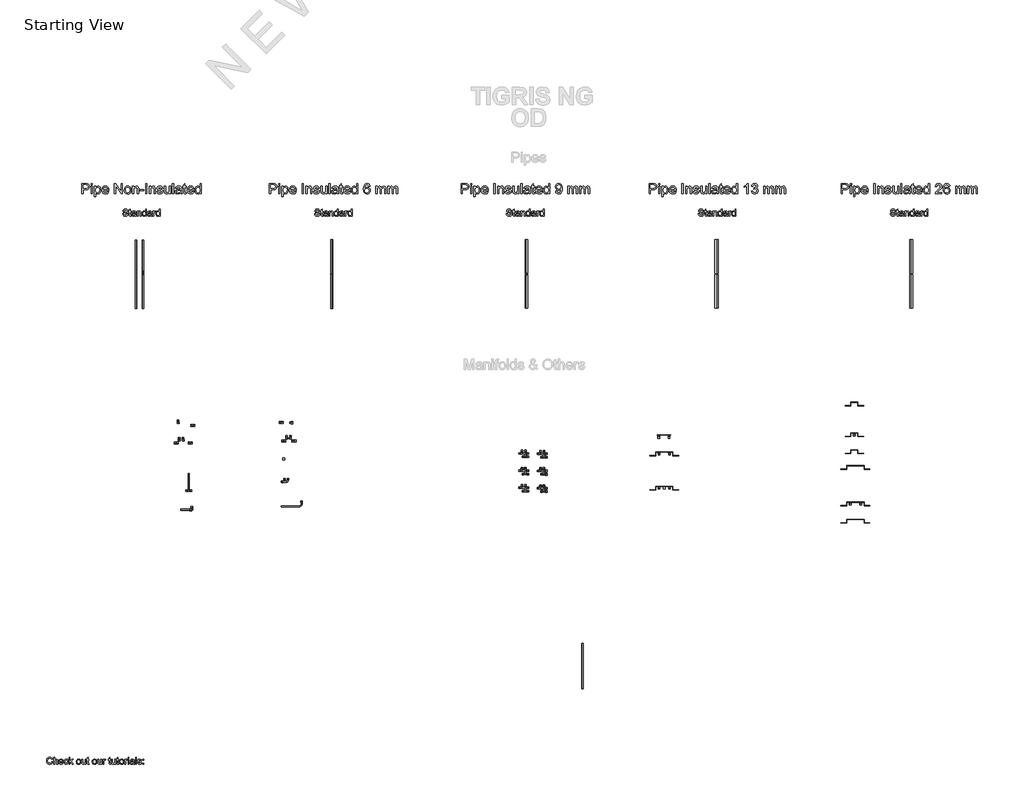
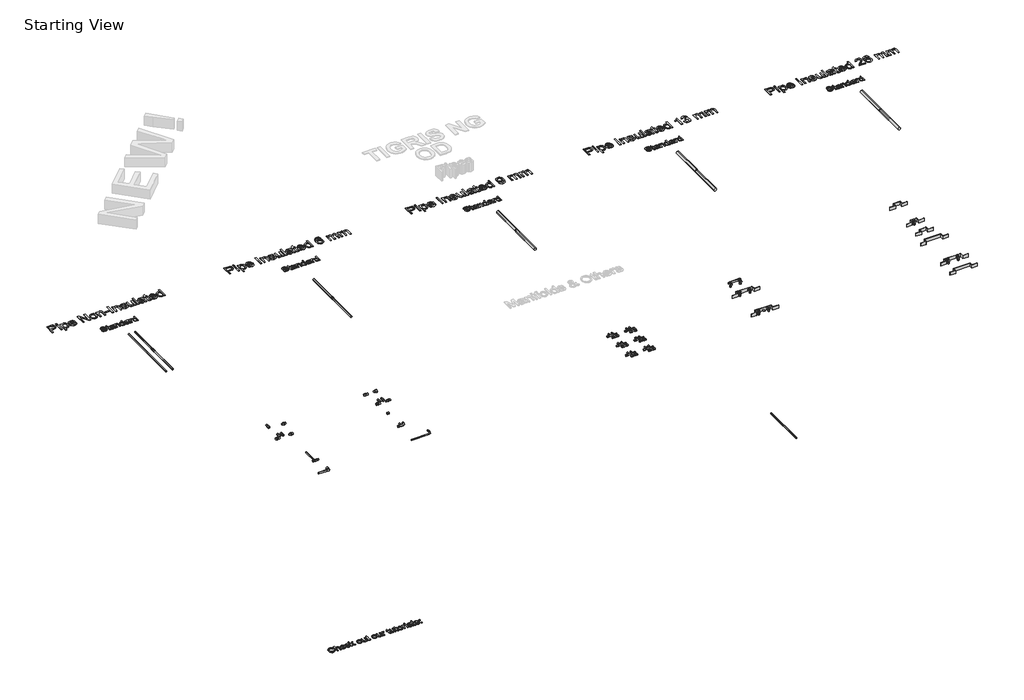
# One storey, part 1 of 3: 41 pipe fittings, 12 pipe segments, 1 proxy.
"""IFC4 building model written with IfcOpenShell, lengths in millimetres."""

from ifc_helpers import new_model, si_unit, point, frame, frame_2d, origin, origin_with_axes, place, context, project, spatial, polyline, circle_curve, trimmed, segment, composite_curve, outline, extrude, transform, mapped, element, save
from components import pipe_fitting_6edcd083, pipe_fitting_dc3cae9f, pipe_fitting_bdfedd8b, pipe_fitting_fed8c86e, pipe_fitting_06188edc, pipe_fitting_1897fdac, pipe_fitting_f2b27973, standard_16_15_64cd6acc, pipe_fitting_f4479bfb, pipe_fitting_2a3987b6, pipe_fitting_a6db7834, m5_standard_16_15_20_15_f5922961, m5_standard_16_15_20_15_51ee50e7, standard_570630be, standard_5f3277fd, standard_16_15_36090b3b, standard_16_15_75b3f4f0, standard_16_15_20_15_c8b35c62, standard_16_25_0061edbd, var_dd9a576a, var_e74b5a52, var_e2d3336e, var_4f26fd76, var_25c4f382, var_9b609cd4, var_ce6fcb06, z_starting_view_new_start_4_8b2e35f7, z_starting_view_new_start_4_25267f94, z_starting_view_new_start_4_25d7ddd4

model = new_model("IFC4")

# Units and contexts
model_context = context("Model", 3, world=origin())
ifc_project = project(units=[si_unit("LENGTHUNIT", "METRE", prefix="MILLI")], contexts=[model_context])

# Site, building, storey
site = spatial("IfcSite", under=ifc_project)
building = spatial("IfcBuilding", under=site)
storey = spatial("IfcBuildingStorey", under=building, Name="Starting View", Elevation=0.0)

# Proxy
placement = place(None, origin())
element("IfcBuildingElementProxy", 1, Name="Arial 100", ObjectType="Arial 100", at=placement, inside=storey, context=model_context, shape_type="SweptSolid", body=[
    extrude(outline(polyline([(13051.5836653, 2506.4993946), (13064.1407041, 2503.2620331), (13058.3465627, 2488.6295267), (13049.253746, 2477.9394891), (13037.3098439, 2471.4003866), (13022.9624461, 2469.2206858), (13008.3973848, 2470.8700234), (12996.8305617, 2475.8180362), (12987.9646056, 2483.893046), (12981.5021453, 2494.9233745), (12976.2414327, 2521.7787602), (12977.7282891, 2536.426595), (12982.1888583, 2549.0756042), (12989.3901484, 2559.3241835), (12999.0991674, 2566.7707282), (13010.6138738, 2571.3048738), (13023.2322262, 2572.8162556), (13037.0002099, 2570.8603497), (13048.383092, 2564.9926319), (13057.0252532, 2555.5748528), (13062.5710743, 2542.9687631), (13050.0140355, 2539.9766562), (13039.7133396, 2555.4154373), (13022.7417169, 2560.2592169), (13003.0968184, 2554.8881397), (12991.9990449, 2540.4671655), (12988.7984715, 2521.8032856), (12992.587656, 2500.1718243), (13004.3844054, 2486.351724), (13021.7116473, 2481.7777246), (13032.1932185, 2483.3350917), (13040.9273502, 2488.007193), (13047.521635, 2495.7449777), (13051.5836653, 2506.4993946)])), origin_with_axes(), (0.0, 0.0, 1.0), 10.0),
    extrude(outline(polyline([(13079.8370026, 2470.7903156), (13079.8370026, 2571.2466258), (13092.3940413, 2571.2466258), (13092.3940413, 2534.3112735), (13102.1858338, 2543.1772296), (13114.2462318, 2546.1325483), (13128.348375, 2542.9074494), (13136.9077628, 2533.9924424), (13139.4829367, 2517.4868036), (13139.4829367, 2470.7903156), (13126.925898, 2470.7903156), (13126.925898, 2516.1869539), (13122.9282469, 2529.4307057), (13111.5974815, 2533.5755095), (13101.3090484, 2530.7796063), (13094.4419178, 2523.2012372), (13092.3940413, 2509.9820109), (13092.3940413, 2470.7903156), (13079.8370026, 2470.7903156)])), origin_with_axes(), (0.0, 0.0, 1.0), 10.0),
    extrude(outline(polyline([(13208.3994971, 2492.7651335), (13220.7112813, 2491.1955036), (13216.2752375, 2481.918746), (13209.1965748, 2474.9841704), (13199.6347086, 2470.6615569), (13187.7490545, 2469.2206858), (13173.0153806, 2471.7069549), (13161.6784838, 2479.1657624), (13154.4496026, 2491.1127302), (13152.0399755, 2507.0634804), (13154.474128, 2523.5507251), (13161.7765856, 2535.8809033), (13172.9601983, 2543.569637), (13187.037816, 2546.1325483), (13200.6770409, 2543.5757684), (13211.575545, 2535.9054288), (13218.7216528, 2523.5997761), (13221.1036887, 2507.1370568), (13221.0301123, 2503.7525424), (13164.5970143, 2503.7525424), (13166.7705837, 2494.3531574), (13171.8197641, 2487.4431073), (13179.1068933, 2483.1940702), (13187.9943091, 2481.7777246), (13200.3060933, 2484.4019495), (13208.3994971, 2492.7651335)]), holes=[polyline([(13164.5970143, 2516.3095812), (13208.5466499, 2516.3095812), (13203.5189293, 2527.6893976), (13196.1980776, 2532.1039815), (13186.988765, 2533.5755095), (13171.5254585, 2528.8788827), (13166.6602191, 2523.3882439), (13164.5970143, 2516.3095812)])]), origin_with_axes(), (0.0, 0.0, 1.0), 10.0),
    extrude(outline(polyline([(13280.7496229, 2497.474023), (13293.3066616, 2495.9043932), (13289.8056513, 2484.7361089), (13283.226695, 2476.2962828), (13274.1890606, 2470.9895851), (13263.3120163, 2469.2206858), (13249.9548342, 2471.6885609), (13239.5100512, 2479.092186), (13232.7686136, 2491.1065988), (13230.5214678, 2507.4068369), (13234.3597033, 2528.265746), (13246.0583507, 2541.6689134), (13263.140338, 2546.1325483), (13273.7506679, 2544.5997066), (13282.2334136, 2540.0011817), (13288.3187949, 2532.5822281), (13291.7370318, 2522.5881006), (13279.179993, 2521.0184707), (13273.3551948, 2530.4239871), (13263.2384399, 2533.5755095), (13255.1235762, 2532.0242737), (13248.6825756, 2527.3705665), (13244.4795238, 2519.3630017), (13243.0785066, 2507.7501934), (13244.448867, 2495.9810353), (13248.5599483, 2487.9458794), (13254.8844529, 2483.3197633), (13262.8950834, 2481.7777246), (13274.7286209, 2485.6282228), (13280.7496229, 2497.474023)])), origin_with_axes(), (0.0, 0.0, 1.0), 10.0),
    extrude(outline(polyline([(13304.2940706, 2470.7903156), (13304.2940706, 2571.2466258), (13316.8511093, 2571.2466258), (13316.8511093, 2517.2660744), (13345.0063447, 2544.5629184), (13362.3703749, 2544.5629184), (13333.871783, 2516.9227178), (13363.9400047, 2470.7903156), (13349.2737758, 2470.7903156), (13324.8709368, 2508.1916518), (13316.8511093, 2500.417079), (13316.8511093, 2470.7903156), (13304.2940706, 2470.7903156)])), origin_with_axes(), (0.0, 0.0, 1.0), 10.0),
    extrude(outline(polyline([(13411.0289001, 2507.676617), (13413.7450955, 2525.4637115), (13421.8936817, 2537.965568), (13431.9613856, 2544.0908032), (13444.0156523, 2546.1325483), (13457.2072875, 2543.6462791), (13467.744041, 2536.1874717), (13474.6510255, 2524.3447371), (13476.9533536, 2508.7066866), (13472.8821262, 2486.3639868), (13461.0240632, 2473.7211089), (13444.0156523, 2469.2206858), (13430.6646016, 2471.6977579), (13420.1401108, 2479.1289742), (13413.3067028, 2491.2200291), (13411.0289001, 2507.676617)]), holes=[polyline([(13423.5859389, 2507.7011425), (13425.0390727, 2496.3366545), (13429.3984744, 2488.2401849), (13435.9590366, 2483.3933397), (13444.0156523, 2481.7777246), (13452.0354798, 2483.4025367), (13458.5837793, 2488.2769731), (13462.943181, 2496.4807416), (13464.3963149, 2508.09355), (13462.9339839, 2519.1269441), (13458.5469911, 2527.1130491), (13451.9894946, 2531.9598944), (13444.0156523, 2533.5755095), (13435.9590366, 2531.9660258), (13429.3984744, 2527.1375746), (13425.0390727, 2519.0594991), (13423.5859389, 2507.7011425)])]), origin_with_axes(), (0.0, 0.0, 1.0), 10.0),
    extrude(outline(polyline([(13538.1689176, 2470.7903156), (13538.1689176, 2483.4699817), (13528.3342056, 2472.7830098), (13515.5073867, 2469.2206858), (13503.6983747, 2471.7222834), (13495.5559199, 2478.0008028), (13491.8157862, 2487.2469036), (13491.0800222, 2498.9210255), (13491.0800222, 2544.5629184), (13503.637061, 2544.5629184), (13503.637061, 2504.8316629), (13504.3973505, 2492.0293695), (13509.3637574, 2484.5123141), (13518.7202228, 2481.7777246), (13529.2048597, 2484.5736277), (13536.1333039, 2492.188785), (13538.1689176, 2506.1805636), (13538.1689176, 2544.5629184), (13550.7259564, 2544.5629184), (13550.7259564, 2470.7903156), (13538.1689176, 2470.7903156)])), origin_with_axes(), (0.0, 0.0, 1.0), 10.0),
    extrude(outline(polyline([(13594.6755921, 2481.2626898), (13596.2452219, 2470.4224337), (13586.8519683, 2469.2206858), (13576.3305433, 2471.3053504), (13571.0820935, 2476.7745294), (13569.5615145, 2491.0238254), (13569.5615145, 2532.0058796), (13560.1437355, 2532.0058796), (13560.1437355, 2544.5629184), (13569.5615145, 2544.5629184), (13569.5615145, 2562.4910343), (13582.1185533, 2569.8731997), (13582.1185533, 2544.5629184), (13594.6755921, 2544.5629184), (13594.6755921, 2532.0058796), (13582.1185533, 2532.0058796), (13582.1185533, 2491.3917074), (13582.7807409, 2484.9169843), (13584.9267192, 2482.6238532), (13589.2064131, 2481.7777246), (13594.6755921, 2481.2626898)])), origin_with_axes(), (0.0, 0.0, 1.0), 10.0),
    extrude(outline(polyline([(13643.3341173, 2507.676617), (13646.0503127, 2525.4637115), (13654.1988989, 2537.965568), (13664.2666028, 2544.0908032), (13676.3208695, 2546.1325483), (13689.5125048, 2543.6462791), (13700.0492582, 2536.1874717), (13706.9562427, 2524.3447371), (13709.2585708, 2508.7066866), (13705.1873434, 2486.3639868), (13693.3292805, 2473.7211089), (13676.3208695, 2469.2206858), (13662.9698188, 2471.6977579), (13652.4453281, 2479.1289742), (13645.61192, 2491.2200291), (13643.3341173, 2507.676617)]), holes=[polyline([(13655.8911561, 2507.7011425), (13657.34429, 2496.3366545), (13661.7036916, 2488.2401849), (13668.2642539, 2483.3933397), (13676.3208695, 2481.7777246), (13684.340697, 2483.4025367), (13690.8889966, 2488.2769731), (13695.2483982, 2496.4807416), (13696.7015321, 2508.09355), (13695.2392011, 2519.1269441), (13690.8522084, 2527.1130491), (13684.2947118, 2531.9598944), (13676.3208695, 2533.5755095), (13668.2642539, 2531.9660258), (13661.7036916, 2527.1375746), (13657.34429, 2519.0594991), (13655.8911561, 2507.7011425)])]), origin_with_axes(), (0.0, 0.0, 1.0), 10.0),
    extrude(outline(polyline([(13770.4741348, 2470.7903156), (13770.4741348, 2483.4699817), (13760.6394228, 2472.7830098), (13747.8126039, 2469.2206858), (13736.0035919, 2471.7222834), (13727.8611371, 2478.0008028), (13724.1210035, 2487.2469036), (13723.3852395, 2498.9210255), (13723.3852395, 2544.5629184), (13735.9422782, 2544.5629184), (13735.9422782, 2504.8316629), (13736.7025677, 2492.0293695), (13741.6689746, 2484.5123141), (13751.02544, 2481.7777246), (13761.5100769, 2484.5736277), (13768.4385211, 2492.188785), (13770.4741348, 2506.1805636), (13770.4741348, 2544.5629184), (13783.0311736, 2544.5629184), (13783.0311736, 2470.7903156), (13770.4741348, 2470.7903156)])), origin_with_axes(), (0.0, 0.0, 1.0), 10.0),
    extrude(outline(polyline([(13800.2971019, 2470.7903156), (13800.2971019, 2544.5629184), (13811.2845108, 2544.5629184), (13811.2845108, 2533.6490859), (13819.0836091, 2543.7045271), (13826.9317584, 2546.1325483), (13839.5378481, 2542.2575246), (13835.3439933, 2531.0003355), (13826.5148254, 2533.5755095), (13819.4147029, 2531.0984374), (13814.8897544, 2524.2313068), (13812.8541407, 2509.5650779), (13812.8541407, 2470.7903156), (13800.2971019, 2470.7903156)])), origin_with_axes(), (0.0, 0.0, 1.0), 10.0),
    extrude(outline(polyline([(13913.3104508, 2481.2626898), (13914.8800807, 2470.4224337), (13905.4868271, 2469.2206858), (13894.965402, 2471.3053504), (13889.7169522, 2476.7745294), (13888.1963733, 2491.0238254), (13888.1963733, 2532.0058796), (13878.7785942, 2532.0058796), (13878.7785942, 2544.5629184), (13888.1963733, 2544.5629184), (13888.1963733, 2562.4910343), (13900.7534121, 2569.8731997), (13900.7534121, 2544.5629184), (13913.3104508, 2544.5629184), (13913.3104508, 2532.0058796), (13900.7534121, 2532.0058796), (13900.7534121, 2491.3917074), (13901.4155997, 2484.9169843), (13903.561578, 2482.6238532), (13907.8412718, 2481.7777246), (13913.3104508, 2481.2626898)])), origin_with_axes(), (0.0, 0.0, 1.0), 10.0),
    extrude(outline(polyline([(13972.956385, 2470.7903156), (13972.956385, 2483.4699817), (13963.121673, 2472.7830098), (13950.2948541, 2469.2206858), (13938.485842, 2471.7222834), (13930.3433872, 2478.0008028), (13926.6032536, 2487.2469036), (13925.8674896, 2498.9210255), (13925.8674896, 2544.5629184), (13938.4245284, 2544.5629184), (13938.4245284, 2504.8316629), (13939.1848178, 2492.0293695), (13944.1512248, 2484.5123141), (13953.5076902, 2481.7777246), (13963.992327, 2484.5736277), (13970.9207713, 2492.188785), (13972.956385, 2506.1805636), (13972.956385, 2544.5629184), (13985.5134238, 2544.5629184), (13985.5134238, 2470.7903156), (13972.956385, 2470.7903156)])), origin_with_axes(), (0.0, 0.0, 1.0), 10.0),
    extrude(outline(polyline([(14029.4630595, 2481.2626898), (14031.0326893, 2470.4224337), (14021.6394357, 2469.2206858), (14011.1180106, 2471.3053504), (14005.8695608, 2476.7745294), (14004.3489819, 2491.0238254), (14004.3489819, 2532.0058796), (13994.9312028, 2532.0058796), (13994.9312028, 2544.5629184), (14004.3489819, 2544.5629184), (14004.3489819, 2562.4910343), (14016.9060207, 2569.8731997), (14016.9060207, 2544.5629184), (14029.4630595, 2544.5629184), (14029.4630595, 2532.0058796), (14016.9060207, 2532.0058796), (14016.9060207, 2491.3917074), (14017.5682083, 2484.9169843), (14019.7141866, 2482.6238532), (14023.9938805, 2481.7777246), (14029.4630595, 2481.2626898)])), origin_with_axes(), (0.0, 0.0, 1.0), 10.0),
    extrude(outline(polyline([(14038.8808385, 2507.676617), (14041.5970339, 2525.4637115), (14049.7456201, 2537.965568), (14059.8133241, 2544.0908032), (14071.8675908, 2546.1325483), (14085.059226, 2543.6462791), (14095.5959795, 2536.1874717), (14102.5029639, 2524.3447371), (14104.8052921, 2508.7066866), (14100.7340646, 2486.3639868), (14088.8760017, 2473.7211089), (14071.8675908, 2469.2206858), (14058.51654, 2471.6977579), (14047.9920493, 2479.1289742), (14041.1586412, 2491.2200291), (14038.8808385, 2507.676617)]), holes=[polyline([(14051.4378773, 2507.7011425), (14052.8910112, 2496.3366545), (14057.2504128, 2488.2401849), (14063.8109751, 2483.3933397), (14071.8675908, 2481.7777246), (14079.8874183, 2483.4025367), (14086.4357178, 2488.2769731), (14090.7951194, 2496.4807416), (14092.2482533, 2508.09355), (14090.7859224, 2519.1269441), (14086.3989296, 2527.1130491), (14079.841433, 2531.9598944), (14071.8675908, 2533.5755095), (14063.8109751, 2531.9660258), (14057.2504128, 2527.1375746), (14052.8910112, 2519.0594991), (14051.4378773, 2507.7011425)])]), origin_with_axes(), (0.0, 0.0, 1.0), 10.0),
    extrude(outline(polyline([(14118.9319607, 2470.7903156), (14118.9319607, 2544.5629184), (14129.9193696, 2544.5629184), (14129.9193696, 2533.6490859), (14137.7184679, 2543.7045271), (14145.5666171, 2546.1325483), (14158.1727068, 2542.2575246), (14153.9788521, 2531.0003355), (14145.1496842, 2533.5755095), (14138.0495617, 2531.0984374), (14133.5246132, 2524.2313068), (14131.4889994, 2509.5650779), (14131.4889994, 2470.7903156), (14118.9319607, 2470.7903156)])), origin_with_axes(), (0.0, 0.0, 1.0), 10.0),
    extrude(outline(polyline([(14166.0208561, 2558.689587), (14166.0208561, 2571.2466258), (14178.5778948, 2571.2466258), (14178.5778948, 2558.689587), (14166.0208561, 2558.689587)])), origin_with_axes(), (0.0, 0.0, 1.0), 10.0),
    extrude(outline(polyline([(14166.0208561, 2470.7903156), (14166.0208561, 2544.5629184), (14178.5778948, 2544.5629184), (14178.5778948, 2470.7903156), (14166.0208561, 2470.7903156)])), origin_with_axes(), (0.0, 0.0, 1.0), 10.0),
    extrude(outline(polyline([(14244.5023484, 2480.2080947), (14232.3254543, 2471.6977579), (14218.873236, 2469.2206858), (14208.3794021, 2470.7106079), (14200.6385518, 2475.1803741), (14195.8652829, 2481.9677969), (14194.2741933, 2490.4106887), (14196.677689, 2500.3435026), (14202.9929966, 2507.5539897), (14211.7853763, 2511.674268), (14222.6501579, 2513.562729), (14244.428772, 2517.879211), (14244.5023484, 2520.6751142), (14241.0442576, 2529.9457405), (14227.1628437, 2533.5755095), (14214.4586521, 2531.1597511), (14208.4008619, 2522.5881006), (14195.8438231, 2524.1577304), (14201.2762139, 2536.4204636), (14212.2145719, 2543.6064252), (14228.7815244, 2546.1325483), (14243.9995763, 2543.9007308), (14252.5957523, 2538.2966618), (14256.4462505, 2529.7740622), (14257.0593871, 2518.7866533), (14257.0593871, 2503.1639312), (14257.6970493, 2481.3485289), (14260.1986468, 2470.7903156), (14247.6416081, 2470.7903156), (14244.5023484, 2480.2080947)]), holes=[polyline([(14244.5023484, 2505.3221723), (14224.2443132, 2501.471674), (14213.4408452, 2499.4360603), (14208.5480147, 2496.1251224), (14206.8312321, 2491.2936055), (14210.5713657, 2484.5000513), (14221.5465119, 2481.7777246), (14234.2507034, 2484.7820942), (14242.4422092, 2492.053895), (14244.428772, 2501.7659796), (14244.5023484, 2505.3221723)])]), origin_with_axes(), (0.0, 0.0, 1.0), 10.0),
    extrude(outline(polyline([(14274.3253154, 2470.7903156), (14274.3253154, 2571.2466258), (14286.8823542, 2571.2466258), (14286.8823542, 2470.7903156), (14274.3253154, 2470.7903156)])), origin_with_axes(), (0.0, 0.0, 1.0), 10.0),
    extrude(outline(polyline([(14301.0090228, 2492.7651335), (14313.5660616, 2494.3347633), (14319.3785971, 2485.0150861), (14332.6959253, 2481.7777246), (14345.4982188, 2484.745306), (14349.6675481, 2491.7105384), (14345.4736933, 2497.3513957), (14332.5487725, 2500.9321138), (14313.639638, 2507.0757431), (14305.3868186, 2514.249442), (14302.5786527, 2524.3784596), (14304.8349956, 2533.734925), (14310.9908876, 2540.8840985), (14318.9739269, 2544.5997066), (14329.7773948, 2546.1325483), (14345.0567604, 2543.6677389), (14354.7688451, 2536.996812), (14359.0853271, 2525.7273603), (14346.5282884, 2524.1577304), (14341.8071361, 2531.0861747), (14330.7584135, 2533.5755095), (14318.740935, 2531.1965393), (14315.1356914, 2525.6537839), (14316.6317449, 2521.9994894), (14321.316109, 2519.2281117), (14332.1318396, 2516.5548358), (14350.5627276, 2510.6441985), (14359.1221153, 2503.9487461), (14362.2245868, 2493.0349136), (14358.5825551, 2481.0174351), (14348.0733927, 2472.2986318), (14332.5242471, 2469.2206858), (14319.8629751, 2470.7044765), (14310.6230056, 2475.1558487), (14304.4548508, 2482.5257513), (14301.0090228, 2492.7651335)])), origin_with_axes(), (0.0, 0.0, 1.0), 10.0),
    extrude(outline(polyline([(14379.4905151, 2470.7903156), (14379.4905151, 2483.3473544), (14392.0475539, 2483.3473544), (14392.0475539, 2470.7903156), (14379.4905151, 2470.7903156)])), origin_with_axes(), (0.0, 0.0, 1.0), 10.0),
    extrude(outline(polyline([(14379.4905151, 2532.0058796), (14379.4905151, 2544.5629184), (14392.0475539, 2544.5629184), (14392.0475539, 2532.0058796), (14379.4905151, 2532.0058796)])), origin_with_axes(), (0.0, 0.0, 1.0), 10.0),
])

# Pipe fittings
pipe_fitting_shape = pipe_fitting_6edcd083(model_context)
element("IfcPipeFitting", 2, ObjectType="PIF_Tigris_Crossfitting_Wavin_(multiport) : Tigris M5 Crossfitting 20x16x16", at=placement, inside=storey, context=model_context, shape_type="MappedRepresentation", body=[
    mapped(pipe_fitting_shape, transform((19960.9193239, 6507.2200387, 0.0), x_axis=(1.0, 0.0, 0.0), y_axis=(0.0, 1.0, 0.0), z_axis=(0.0, 0.0, 1.0))),
])
pipe_fitting_2_shape = pipe_fitting_dc3cae9f(model_context)
element("IfcPipeFitting", 3, ObjectType="PIF_Tigris_Crossfitting_Wavin_(multiport) : Tigris M5 Crossfitting 20x20x16", at=placement, inside=storey, context=model_context, shape_type="MappedRepresentation", body=[
    mapped(pipe_fitting_2_shape, transform((20231.2508424, 6752.1335563, 0.0), x_axis=(1.0, 0.0, 0.0), y_axis=(0.0, 1.0, 0.0), z_axis=(0.0, 0.0, 1.0))),
])
pipe_fitting_3_shape = pipe_fitting_bdfedd8b(model_context)
element("IfcPipeFitting", 4, ObjectType="PIF_Tigris_Crossfitting_Wavin_(multiport) : Tigris M5 Crossfitting 20x16x20", at=placement, inside=storey, context=model_context, shape_type="MappedRepresentation", body=[
    mapped(pipe_fitting_3_shape, transform((20231.2508424, 7002.1335563, 0.0), x_axis=(1.0, 0.0, 0.0), y_axis=(0.0, 1.0, 0.0), z_axis=(0.0, 0.0, 1.0))),
])
pipe_fitting_4_shape = pipe_fitting_fed8c86e(model_context)
element("IfcPipeFitting", 5, ObjectType="PIF_Tigris_Crossfitting_Wavin_(multiport) : Tigris M5 Crossfitting 16x20x16", at=placement, inside=storey, context=model_context, shape_type="MappedRepresentation", body=[
    mapped(pipe_fitting_4_shape, transform((19960.9193239, 6757.2200387, 0.0), x_axis=(1.0, 0.0, 0.0), y_axis=(0.0, 1.0, 0.0), z_axis=(0.0, 0.0, 1.0))),
])
pipe_fitting_5_shape = pipe_fitting_06188edc(model_context)
element("IfcPipeFitting", 6, ObjectType="PIF_Tigris_Crossfitting_Wavin_(multiport) : Tigris M5 Crossfitting 20x20x20", at=placement, inside=storey, context=model_context, shape_type="MappedRepresentation", body=[
    mapped(pipe_fitting_5_shape, transform((20231.2508424, 6502.1335563, 0.0), x_axis=(1.0, 0.0, 0.0), y_axis=(0.0, 1.0, 0.0), z_axis=(0.0, 0.0, 1.0))),
])
pipe_fitting_6_shape = pipe_fitting_1897fdac(model_context)
element("IfcPipeFitting", 7, ObjectType="PIF_Tigris_Crossfitting_Wavin_(multiport) : Tigris M5 Crossfitting 16x16x16", at=placement, inside=storey, context=model_context, shape_type="MappedRepresentation", body=[
    mapped(pipe_fitting_6_shape, transform((19960.9193239, 7007.2200387, 0.0), x_axis=(1.0, 0.0, 0.0), y_axis=(0.0, 1.0, 0.0), z_axis=(0.0, 0.0, 1.0))),
])
pipe_fitting_7_shape = pipe_fitting_f2b27973(model_context)
element("IfcPipeFitting", 8, ObjectType="PIF_Tigris_U-Connector_MMT_Wavin : 16-15/16-20/20-15/20-20", at=placement, inside=storey, context=model_context, shape_type="MappedRepresentation", body=[
    mapped(pipe_fitting_7_shape, transform((16447.9692893, 6595.4851762, 0.0), x_axis=(1.0, 0.0, 0.0), y_axis=(0.0, 1.0, 0.0), z_axis=(0.0, 0.0, 1.0))),
])
standard_16_15_shape = standard_16_15_64cd6acc(model_context)
element("IfcPipeFitting", 9, ObjectType="PIF_Tigris_Single_Plate_U-Turn_Wavin_(multiport) : Standard - 16-15/20-15/25-15", at=placement, inside=storey, context=model_context, shape_type="MappedRepresentation", body=[
    mapped(standard_16_15_shape, transform((24760.8958582, 7754.4695254, 0.0), x_axis=(1.0, 0.0, 0.0), y_axis=(0.0, 1.0, 0.0), z_axis=(0.0, 0.0, 1.0))),
])
pipe_fitting_8_shape = pipe_fitting_f4479bfb(model_context)
element("IfcPipeFitting", 10, ObjectType="PIF_Tigris_Elbow_Cu_30cm_M5_Wavin : Diameters 16-15", at=placement, inside=storey, context=model_context, shape_type="MappedRepresentation", body=[
    mapped(pipe_fitting_8_shape, transform((16697.9692893, 6237.4819708, 0.0), x_axis=(1.0, 0.0, 0.0), y_axis=(0.0, 1.0, 0.0), z_axis=(0.0, 0.0, 1.0))),
])
pipe_fitting_9_shape = pipe_fitting_2a3987b6(model_context)
element("IfcPipeFitting", 11, ObjectType="PIF_Tigris_Elbow_Cu_Connector_M5_Wavin : Diameters 16-12 / 16-15 / 20-15 / 20-22 / 25-22", at=placement, inside=storey, context=model_context, shape_type="MappedRepresentation", body=[
    mapped(pipe_fitting_9_shape, transform((15094.0343253, 6184.5403652, 0.0), x_axis=(1.0, 0.0, 0.0), y_axis=(0.0, 1.0, 0.0), z_axis=(0.0, 0.0, 1.0))),
])
pipe_fitting_10_shape = pipe_fitting_a6db7834(model_context)
element("IfcPipeFitting", 12, ObjectType="PIF_Tigris_Tee_Radiator_Connector_M5_Wavin : Diameters 16-15/20-15", at=placement, inside=storey, context=model_context, shape_type="MappedRepresentation", body=[
    mapped(pipe_fitting_10_shape, transform((15051.0343253, 6465.996556, 0.0), x_axis=(1.0, 0.0, 0.0), y_axis=(0.0, 0.0, -1.0), z_axis=(0.0, 1.0, 0.0))),
])
m5_standard_16_15_20_15_shape = m5_standard_16_15_20_15_f5922961(model_context)
element("IfcPipeFitting", 13, ObjectType="PIF_Tigris_Wall_Flange_Elbow_M-K_FMT_Wavin_(nested) : M5 Standard 16-15/20-15", at=placement, inside=storey, context=model_context, shape_type="MappedRepresentation", body=[
    mapped(m5_standard_16_15_20_15_shape, transform((24760.8958582, 7283.4477545, 0.0), x_axis=(0.0, 0.0, 1.0000000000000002), y_axis=(0.0, -1.0000000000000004, 0.0), z_axis=(1.0000000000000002, 0.0, 0.0))),
])
m5_standard_16_15_20_15_2_shape = m5_standard_16_15_20_15_51ee50e7(model_context)
element("IfcPipeFitting", 14, ObjectType="PIF_Tigris_Wall_Flange_Elbow_M-K_FMT_Wavin_(nested) : M5 Standard 16-15/20-15", at=placement, inside=storey, context=model_context, shape_type="MappedRepresentation", body=[
    mapped(m5_standard_16_15_20_15_2_shape, transform((24700.1697443, 6274.276634, 0.0), x_axis=(0.0, 0.0, 1.0000000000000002), y_axis=(0.0, -1.0000000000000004, 0.0), z_axis=(1.0000000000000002, 0.0, 0.0))),
])
element("IfcPipeFitting", 15, ObjectType="PIF_Tigris_Wall_Flange_Elbow_M-K_FMT_Wavin_(nested) : M5 Standard 16-15/20-15", at=placement, inside=storey, context=model_context, shape_type="MappedRepresentation", body=[
    mapped(m5_standard_16_15_20_15_2_shape, transform((24853.1697443, 6274.276634, 0.0), x_axis=(0.0, 0.0, 1.0000000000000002), y_axis=(0.0, -1.0000000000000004, 0.0), z_axis=(1.0000000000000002, 0.0, 0.0))),
])
standard_shape = standard_570630be(model_context)
element("IfcPipeFitting", 16, ObjectType="PIF_Tigris_Coupler_M-K_Wavin : Standard", at=placement, inside=storey, context=model_context, shape_type="MappedRepresentation", body=[
    mapped(standard_shape, transform((14383.1193149, 9645.2617688, 107.5), x_axis=(0.0, 1.0, 0.0), y_axis=(-1.0, 0.0, 0.0), z_axis=(0.0, 0.0, 1.0))),
])
element("IfcPipeFitting", 17, ObjectType="PIF_Tigris_Coupler_M-K_Wavin : Standard", at=placement, inside=storey, context=model_context, shape_type="MappedRepresentation", body=[
    mapped(standard_shape, transform((17137.2180612, 9626.3121207, 0.0), x_axis=(0.0, -1.0, 0.0), y_axis=(1.0, 0.0, 0.0), z_axis=(0.0, 0.0, 1.0))),
])
element("IfcPipeFitting", 18, ObjectType="PIF_Tigris_Coupler_M-K_Wavin : Standard", at=placement, inside=storey, context=model_context, shape_type="MappedRepresentation", body=[
    mapped(standard_shape, transform((19976.2680612, 9628.3121207, 107.5), x_axis=(0.0, 1.0, 0.0), y_axis=(-1.0, 0.0, 0.0), z_axis=(0.0, 0.0, 1.0))),
])
element("IfcPipeFitting", 19, ObjectType="PIF_Tigris_Coupler_M-K_Wavin : Standard", at=placement, inside=storey, context=model_context, shape_type="MappedRepresentation", body=[
    mapped(standard_shape, transform((22751.2965499, 9627.5030929, 107.5), x_axis=(0.0, 1.0, 0.0), y_axis=(-1.0, 0.0, 0.0), z_axis=(0.0, 0.0, 1.0))),
])
standard_2_shape = standard_5f3277fd(model_context)
element("IfcPipeFitting", 20, ObjectType="PIF_Tigris_Coupler_M-K_Wavin : Standard", at=placement, inside=storey, context=model_context, shape_type="MappedRepresentation", body=[
    mapped(standard_2_shape, transform((25591.3558383, 9627.0611311, 107.5), x_axis=(0.0, 1.0, 0.0), y_axis=(-1.0, 0.0, 0.0), z_axis=(0.0, 0.0, 1.0))),
])
standard_16_15_2_shape = standard_16_15_36090b3b(model_context)
element("IfcPipeFitting", 21, ObjectType="PIF_Tigris_Holder_Plate_Bath_Shower_FMT_Wavin_(multiport) : Standard - 16-15", at=placement, inside=storey, context=model_context, shape_type="MappedRepresentation", body=[
    mapped(standard_16_15_2_shape, transform((21987.337006, 7026.6660797, 0.0), x_axis=(1.0, 0.0, 0.0), y_axis=(0.0, 1.0, 0.0), z_axis=(0.0, 0.0, 1.0))),
])
standard_16_15_3_shape = standard_16_15_75b3f4f0(model_context)
element("IfcPipeFitting", 22, ObjectType="PIF_Tigris_Holder_Plate_Washstand_FMT_Wavin_(multiport) : Standard - 16-15", at=placement, inside=storey, context=model_context, shape_type="MappedRepresentation", body=[
    mapped(standard_16_15_3_shape, transform((21987.337006, 6527.6660797, 0.0), x_axis=(1.0, 0.0, 0.0), y_axis=(0.0, 1.0, 0.0), z_axis=(0.0, 0.0, 1.0))),
])
element("IfcPipeFitting", 23, ObjectType="PIF_Tigris_Single_Plate_Tee_FMT_Wavin_(multiport) : Standard - 16-15", at=placement, inside=storey, context=model_context, shape_type="MappedRepresentation", body=[
    mapped(standard_16_15_shape, transform((24760.8958582, 7059.9303394, 0.0), x_axis=(1.0, 0.0, 0.0), y_axis=(0.0, 1.0, 0.0), z_axis=(0.0, 0.0, 1.0))),
])
element("IfcPipeFitting", 24, ObjectType="PIF_Tigris_Single_Plate_Elbow_FMT_Wavin_(multiport) : Standard - 16-15", at=placement, inside=storey, context=model_context, shape_type="MappedRepresentation", body=[
    mapped(standard_16_15_shape, transform((24760.8958582, 7305.4477545, 0.0), x_axis=(1.0, 0.0, 0.0), y_axis=(0.0, 1.0, 0.0), z_axis=(0.0, 0.0, 1.0))),
])
standard_16_15_20_15_shape = standard_16_15_20_15_c8b35c62(model_context)
element("IfcPipeFitting", 25, ObjectType="PIF_Tigris_Holder_Plate_Anti-Rotatable_FMT_Wavin_(multiport) : Standard - 16-15/20-15", at=placement, inside=storey, context=model_context, shape_type="MappedRepresentation", body=[
    mapped(standard_16_15_20_15_shape, transform((21983.5423912, 7276.1660797, 0.0), x_axis=(1.0, 0.0, 0.0), y_axis=(0.0, 1.0, 0.0), z_axis=(0.0, 0.0, 1.0))),
])
standard_16_25_shape = standard_16_25_0061edbd(model_context)
element("IfcPipeFitting", 26, ObjectType="PIF_Tigris_Multiple_Plate_Tee_FMT_Wavin_(multiport) : Standard 16-20", at=placement, inside=storey, context=model_context, shape_type="MappedRepresentation", body=[
    mapped(standard_16_25_shape, transform((24776.6697443, 6827.9945437, 0.0), x_axis=(1.0, 0.0, 0.0), y_axis=(0.0, 1.0, 0.0), z_axis=(0.0, 0.0, 1.0))),
])
element("IfcPipeFitting", 27, ObjectType="PIF_Tigris_Multiple_Plate_Elbow_FMT_Wavin_(multiport) : Standard 16-25", at=placement, inside=storey, context=model_context, shape_type="MappedRepresentation", body=[
    mapped(standard_16_25_shape, transform((24776.6697443, 6296.276634, 0.0), x_axis=(1.0, 0.0, 0.0), y_axis=(0.0, 1.0, 0.0), z_axis=(0.0, 0.0, 1.0))),
])
element("IfcPipeFitting", 28, ObjectType="PIF_Tigris_Multiple_Plate_U-Turn_Wavin_(multiport) : Standard 16-25", at=placement, inside=storey, context=model_context, shape_type="MappedRepresentation", body=[
    mapped(standard_16_25_shape, transform((24776.6697443, 6045.3658341, 0.0), x_axis=(1.0, 0.0, 0.0), y_axis=(0.0, 1.0, 0.0), z_axis=(0.0, 0.0, 1.0))),
])
var_shape = var_dd9a576a(model_context)
element("IfcPipeFitting", 29, ObjectType="Z_PIF_Tigris_K1_Manifold_Male_To_Male_Thread_Wavin_(nested) : Var.", at=placement, inside=storey, context=model_context, shape_type="MappedRepresentation", body=[
    mapped(var_shape, transform((15101.4922723, 7161.262819, 0.0), x_axis=(1.0, 0.0, 0.0), y_axis=(0.0, 1.0, 0.0), z_axis=(0.0, 0.0, 1.0))),
])
element("IfcPipeFitting", 30, ObjectType="Z_PIF_Tigris_K1_Manifold_Male_To_Male_Thread_Wavin_(nested) : Var.", at=placement, inside=storey, context=model_context, shape_type="MappedRepresentation", body=[
    mapped(var_shape, transform((15137.9146361, 7416.4648675, 0.0), x_axis=(1.0, 0.0, 0.0), y_axis=(0.0, 1.0, 0.0), z_axis=(0.0, 0.0, 1.0))),
])
var_2_shape = var_e74b5a52(model_context)
element("IfcPipeFitting", 31, ObjectType="Z_PIF_Tigris_K1_Manifold_Male_To_Female_Thread_Wavin_(nested) : Var.", at=placement, inside=storey, context=model_context, shape_type="MappedRepresentation", body=[
    mapped(var_2_shape, transform((16522.4060064, 7458.2737205, 0.0), x_axis=(1.0, 0.0, 0.0), y_axis=(0.0, 1.0, 0.0), z_axis=(0.0, 0.0, 1.0))),
])
var_3_shape = var_e2d3336e(model_context)
element("IfcPipeFitting", 32, ObjectType="Z_PIF_Tigris_Manifold_Connector_K5_Wavin_(nested) : Var.", at=placement, inside=storey, context=model_context, shape_type="MappedRepresentation", body=[
    mapped(var_3_shape, transform((16479.6272362, 7247.5971202, 0.0), x_axis=(0.0, 1.0, 0.0), y_axis=(-1.0, 0.0, 0.0), z_axis=(0.0, 0.0, 1.0))),
])
var_4_shape = var_4f26fd76(model_context)
element("IfcPipeFitting", 33, ObjectType="Z_PIF_Tigris_Manifold_Adaptor_K5_MMT_Wavin_(nested) : Var.", at=placement, inside=storey, context=model_context, shape_type="MappedRepresentation", body=[
    mapped(var_4_shape, transform((16595.1272362, 7190.1971202, 0.0), x_axis=(1.0, 0.0, 0.0), y_axis=(0.0, 1.0, 0.0), z_axis=(0.0, 0.0, 1.0))),
])
var_5_shape = var_25c4f382(model_context)
element("IfcPipeFitting", 34, ObjectType="Z_PIF_Tigris_K1_Manifold_Female_Cap_Wavin_(nested) : Var.", at=placement, inside=storey, context=model_context, shape_type="MappedRepresentation", body=[
    mapped(var_5_shape, transform((16442.6968001, 6929.6829989, 0.0), x_axis=(1.0, 0.0, 0.0), y_axis=(0.0, 1.0, 0.0), z_axis=(0.0, 0.0, 1.0))),
])
var_6_shape = var_9b609cd4(model_context)
element("IfcPipeFitting", 35, ObjectType="Z_PIF_Tigris_K1_Manifold_Female_To_Male_Thread_Wavin_(nested) : Var.", at=placement, inside=storey, context=model_context, shape_type="MappedRepresentation", body=[
    mapped(var_6_shape, transform((14838.7922723, 7161.262819, 0.0), x_axis=(-1.0, 0.0, 0.0), y_axis=(0.0, -1.0, 0.0), z_axis=(0.0, 0.0, 1.0))),
])
element("IfcPipeFitting", 36, ObjectType="Z_PIF_Tigris_K1_Manifold_Female_To_Male_Thread_Wavin_(nested) : Var.", at=placement, inside=storey, context=model_context, shape_type="MappedRepresentation", body=[
    mapped(var_6_shape, transform((16405.4272362, 7190.1971202, 0.0), x_axis=(-1.0, 0.0, 0.0), y_axis=(0.0, -1.0, 0.0), z_axis=(0.0, 0.0, 1.0))),
])
element("IfcPipeFitting", 37, ObjectType="Z_PIF_Tigris_K1_Manifold_Female_To_Male_Thread_Wavin_(nested) : Var.", at=placement, inside=storey, context=model_context, shape_type="MappedRepresentation", body=[
    mapped(var_6_shape, transform((16371.7060064, 7458.2737205, 0.0), x_axis=(-1.0, 0.0, 0.0), y_axis=(0.0, -1.0, 0.0), z_axis=(0.0, 0.0, 1.0))),
])
var_7_shape = var_ce6fcb06(model_context)
element("IfcPipeFitting", 38, ObjectType="Z_PIF_Tigris_Manifold_Connector_K5_Wavin_(nested) : Var.", at=placement, inside=storey, context=model_context, shape_type="MappedRepresentation", body=[
    mapped(var_7_shape, transform((16534.6272362, 7247.5971202, 0.0), x_axis=(0.0, 1.0, 0.0), y_axis=(-1.0, 0.0, 0.0), z_axis=(0.0, 0.0, 1.0))),
])
element("IfcPipeFitting", 39, ObjectType="Z_PIF_Tigris_Manifold_Connector_K5_Wavin_(nested) : Var.", at=placement, inside=storey, context=model_context, shape_type="MappedRepresentation", body=[
    mapped(var_7_shape, transform((14967.9922723, 7218.662819, 0.0), x_axis=(0.0, 1.0, 0.0), y_axis=(-1.0, 0.0, 0.0), z_axis=(0.0, 0.0, 1.0))),
])
element("IfcPipeFitting", 40, ObjectType="Z_PIF_Tigris_Manifold_Connector_K5_Wavin_(nested) : Var.", at=placement, inside=storey, context=model_context, shape_type="MappedRepresentation", body=[
    mapped(var_7_shape, transform((14912.9922723, 7218.662819, 0.0), x_axis=(0.0, 1.0, 0.0), y_axis=(-1.0, 0.0, 0.0), z_axis=(0.0, 0.0, 1.0))),
])
element("IfcPipeFitting", 41, ObjectType="Z_PIF_Tigris_Manifold_Connector_K5_Wavin_(nested) : Var.", at=placement, inside=storey, context=model_context, shape_type="MappedRepresentation", body=[
    mapped(var_7_shape, transform((14894.4146361, 7473.8648675, 0.0), x_axis=(0.0, 1.0, 0.0), y_axis=(-1.0, 0.0, 0.0), z_axis=(0.0, 0.0, 1.0))),
])
z_starting_view_new_start_4_shape = z_starting_view_new_start_4_8b2e35f7(model_context)
z_starting_view_new_start_4_2_shape = z_starting_view_new_start_4_25267f94(model_context)
z_starting_view_new_start_4_3_shape = z_starting_view_new_start_4_25d7ddd4(model_context)
element("IfcPipeFitting", 42, ObjectType="Z_Starting_View_New : Start_4", at=placement, inside=storey, context=model_context, shape_type="MappedRepresentation", body=[
    mapped(z_starting_view_new_start_4_shape, transform((-8272.2761588, 3352.0534974, 0.0), x_axis=(1.0, 0.0, 0.0), y_axis=(0.0, 1.0, 0.0), z_axis=(0.0, 0.0, 1.0))),
    mapped(z_starting_view_new_start_4_2_shape, transform((-8272.2761588, 3352.0534974, 0.0), x_axis=(1.0, 0.0, 0.0), y_axis=(0.0, 1.0, 0.0), z_axis=(0.0, 0.0, 1.0))),
    mapped(z_starting_view_new_start_4_3_shape, transform((-8272.2761588, 3352.0534974, 0.0), x_axis=(1.0, 0.0, 0.0), y_axis=(0.0, 1.0, 0.0), z_axis=(0.0, 0.0, 1.0))),
])

# Pipe segments
element("IfcPipeSegment", 43, ObjectType="Wavin Tigris Single Pipe (OD) - Standard", at=placement, inside=storey, context=model_context, shape_type="SweptSolid", body=[
    extrude(outline(composite_curve([segment(trimmed(circle_curve(frame_2d((107.5, 14283.1193149)), 10.0), [point((107.5, 14293.1193149))], [point((117.5, 14283.1193149))], False, "CARTESIAN"), True, "CONTINUOUS"), segment(trimmed(circle_curve(frame_2d((107.5, 14283.1193149)), 10.0), [point((117.5, 14283.1193149))], [point((107.5, 14273.1193149))], False, "CARTESIAN"), True, "CONTINUOUS"), segment(trimmed(circle_curve(frame_2d((107.5, 14283.1193149)), 10.0), [point((107.5, 14273.1193149))], [point((97.5, 14283.1193149))], False, "CARTESIAN"), True, "CONTINUOUS"), segment(trimmed(circle_curve(frame_2d((107.5, 14283.1193149)), 10.0), [point((97.5, 14283.1193149))], [point((107.5, 14293.1193149))], False, "CARTESIAN"), True, "CONTINUOUS")], self_intersect=False)), frame((0.0, 9125.2617688, 0.0), z_axis=(0.0, 1.0, 0.0), x_axis=(0.0, 0.0, 1.0)), (0.0, 0.0, 1.0), 1000.0),
])
element("IfcPipeSegment", 44, ObjectType="Wavin Tigris Pipe in Coil (OD) - Standard", at=placement, inside=storey, context=model_context, shape_type="SweptSolid", body=[
    extrude(outline(composite_curve([segment(trimmed(circle_curve(frame_2d((107.5, 14383.1193149)), 10.0), [point((107.5, 14393.1193149))], [point((117.5, 14383.1193149))], False, "CARTESIAN"), True, "CONTINUOUS"), segment(trimmed(circle_curve(frame_2d((107.5, 14383.1193149)), 10.0), [point((117.5, 14383.1193149))], [point((107.5, 14373.1193149))], False, "CARTESIAN"), True, "CONTINUOUS"), segment(trimmed(circle_curve(frame_2d((107.5, 14383.1193149)), 10.0), [point((107.5, 14373.1193149))], [point((97.5, 14383.1193149))], False, "CARTESIAN"), True, "CONTINUOUS"), segment(trimmed(circle_curve(frame_2d((107.5, 14383.1193149)), 10.0), [point((97.5, 14383.1193149))], [point((107.5, 14393.1193149))], False, "CARTESIAN"), True, "CONTINUOUS")], self_intersect=False)), frame((0.0, 9653.7617688, 0.0), z_axis=(0.0, 1.0, 0.0), x_axis=(0.0, 0.0, 1.0)), (0.0, 0.0, 1.0), 471.5),
])
element("IfcPipeSegment", 45, ObjectType="Wavin Tigris Pipe Insulated 9mm Red (OD) - Standard", at=placement, inside=storey, context=model_context, shape_type="SweptSolid", body=[
    extrude(outline(composite_curve([segment(trimmed(circle_curve(frame_2d((107.5, 19976.2680612)), 19.0), [point((107.5, 19995.2680612))], [point((126.5, 19976.2680612))], False, "CARTESIAN"), True, "CONTINUOUS"), segment(trimmed(circle_curve(frame_2d((107.5, 19976.2680612)), 19.0), [point((126.5, 19976.2680612))], [point((107.5, 19957.2680612))], False, "CARTESIAN"), True, "CONTINUOUS"), segment(trimmed(circle_curve(frame_2d((107.5, 19976.2680612)), 19.0), [point((107.5, 19957.2680612))], [point((88.5, 19976.2680612))], False, "CARTESIAN"), True, "CONTINUOUS"), segment(trimmed(circle_curve(frame_2d((107.5, 19976.2680612)), 19.0), [point((88.5, 19976.2680612))], [point((107.5, 19995.2680612))], False, "CARTESIAN"), True, "CONTINUOUS")], self_intersect=False)), frame((0.0, 9636.8121207, 0.0), z_axis=(0.0, 1.0, 0.0), x_axis=(0.0, 0.0, 1.0)), (0.0, 0.0, 1.0), 491.5),
])
element("IfcPipeSegment", 46, ObjectType="Wavin Tigris Pipe Insulated 13mm Red (OD) - Standard", at=placement, inside=storey, context=model_context, shape_type="SweptSolid", body=[
    extrude(outline(composite_curve([segment(trimmed(circle_curve(frame_2d((107.5, 22751.2965499)), 23.0), [point((107.5, 22774.2965499))], [point((130.5, 22751.2965499))], False, "CARTESIAN"), True, "CONTINUOUS"), segment(trimmed(circle_curve(frame_2d((107.5, 22751.2965499)), 23.0), [point((130.5, 22751.2965499))], [point((107.5, 22728.2965499))], False, "CARTESIAN"), True, "CONTINUOUS"), segment(trimmed(circle_curve(frame_2d((107.5, 22751.2965499)), 23.0), [point((107.5, 22728.2965499))], [point((84.5, 22751.2965499))], False, "CARTESIAN"), True, "CONTINUOUS"), segment(trimmed(circle_curve(frame_2d((107.5, 22751.2965499)), 23.0), [point((84.5, 22751.2965499))], [point((107.5, 22774.2965499))], False, "CARTESIAN"), True, "CONTINUOUS")], self_intersect=False)), frame((0.0, 9636.0030929, 0.0), z_axis=(0.0, 1.0, 0.0), x_axis=(0.0, 0.0, 1.0)), (0.0, 0.0, 1.0), 491.5),
])
element("IfcPipeSegment", 47, ObjectType="Wavin Tigris Pipe in Coil (OD) - Standard", at=placement, inside=storey, context=model_context, shape_type="SweptSolid", body=[
    extrude(outline(composite_curve([segment(trimmed(circle_curve(frame_2d((107.5, 14383.1193149)), 10.0), [point((107.5, 14373.1193149))], [point((97.5, 14383.1193149))], False, "CARTESIAN"), True, "CONTINUOUS"), segment(trimmed(circle_curve(frame_2d((107.5, 14383.1193149)), 10.0), [point((97.5, 14383.1193149))], [point((107.5, 14393.1193149))], False, "CARTESIAN"), True, "CONTINUOUS"), segment(trimmed(circle_curve(frame_2d((107.5, 14383.1193149)), 10.0), [point((107.5, 14393.1193149))], [point((117.5, 14383.1193149))], False, "CARTESIAN"), True, "CONTINUOUS"), segment(trimmed(circle_curve(frame_2d((107.5, 14383.1193149)), 10.0), [point((117.5, 14383.1193149))], [point((107.5, 14373.1193149))], False, "CARTESIAN"), True, "CONTINUOUS")], self_intersect=False)), frame((0.0, 9125.2617688, 0.0), z_axis=(0.0, 1.0, 0.0), x_axis=(0.0, 0.0, 1.0)), (0.0, 0.0, 1.0), 511.5),
])
element("IfcPipeSegment", 48, ObjectType="Wavin Tigris Pipe in Coil (OD) - In Protection", at=placement, inside=storey, context=model_context, shape_type="SweptSolid", body=[
    extrude(outline(composite_curve([segment(trimmed(circle_curve(frame_2d((0.0, 17137.2180612)), 14.0), [point((0.0, 17123.2180612))], [point((-14.0, 17137.2180612))], False, "CARTESIAN"), True, "CONTINUOUS"), segment(trimmed(circle_curve(frame_2d((0.0, 17137.2180612)), 14.0), [point((-14.0, 17137.2180612))], [point((0.0, 17151.2180612))], False, "CARTESIAN"), True, "CONTINUOUS"), segment(trimmed(circle_curve(frame_2d((0.0, 17137.2180612)), 14.0), [point((0.0, 17151.2180612))], [point((14.0, 17137.2180612))], False, "CARTESIAN"), True, "CONTINUOUS"), segment(trimmed(circle_curve(frame_2d((0.0, 17137.2180612)), 14.0), [point((14.0, 17137.2180612))], [point((0.0, 17123.2180612))], False, "CARTESIAN"), True, "CONTINUOUS")], self_intersect=False)), frame((0.0, 9126.3121207, 0.0), z_axis=(0.0, 1.0, 0.0), x_axis=(0.0, 0.0, 1.0)), (0.0, 0.0, 1.0), 491.5),
])
element("IfcPipeSegment", 49, ObjectType="Wavin Tigris Pipe Insulated 26mm Grey (OD) - Standard", at=placement, inside=storey, context=model_context, shape_type="SweptSolid", body=[
    extrude(outline(composite_curve([segment(trimmed(circle_curve(frame_2d((107.5, 25591.3558383)), 21.0), [point((107.5, 25612.3558383))], [point((128.5, 25591.3558383))], False, "CARTESIAN"), True, "CONTINUOUS"), segment(trimmed(circle_curve(frame_2d((107.5, 25591.3558383)), 21.0), [point((128.5, 25591.3558383))], [point((107.5, 25570.3558383))], False, "CARTESIAN"), True, "CONTINUOUS"), segment(trimmed(circle_curve(frame_2d((107.5, 25591.3558383)), 21.0), [point((107.5, 25570.3558383))], [point((86.5, 25591.3558383))], False, "CARTESIAN"), True, "CONTINUOUS"), segment(trimmed(circle_curve(frame_2d((107.5, 25591.3558383)), 21.0), [point((86.5, 25591.3558383))], [point((107.5, 25612.3558383))], False, "CARTESIAN"), True, "CONTINUOUS")], self_intersect=False)), frame((0.0, 9636.0611311, 0.0), z_axis=(0.0, 1.0, 0.0), x_axis=(0.0, 0.0, 1.0)), (0.0, 0.0, 1.0), 491.0),
])
element("IfcPipeSegment", 50, ObjectType="Wavin Tigris Pipe in Coil (OD) - In Protection", at=placement, inside=storey, context=model_context, shape_type="SweptSolid", body=[
    extrude(outline(composite_curve([segment(trimmed(circle_curve(frame_2d((0.0, 17137.2180612)), 14.0), [point((0.0, 17123.2180612))], [point((-14.0, 17137.2180612))], False, "CARTESIAN"), True, "CONTINUOUS"), segment(trimmed(circle_curve(frame_2d((0.0, 17137.2180612)), 14.0), [point((-14.0, 17137.2180612))], [point((0.0, 17151.2180612))], False, "CARTESIAN"), True, "CONTINUOUS"), segment(trimmed(circle_curve(frame_2d((0.0, 17137.2180612)), 14.0), [point((0.0, 17151.2180612))], [point((14.0, 17137.2180612))], False, "CARTESIAN"), True, "CONTINUOUS"), segment(trimmed(circle_curve(frame_2d((0.0, 17137.2180612)), 14.0), [point((14.0, 17137.2180612))], [point((0.0, 17123.2180612))], False, "CARTESIAN"), True, "CONTINUOUS")], self_intersect=False)), frame((0.0, 9634.8121207, 0.0), z_axis=(0.0, 1.0, 0.0), x_axis=(0.0, 0.0, 1.0)), (0.0, 0.0, 1.0), 491.5),
])
element("IfcPipeSegment", 51, ObjectType="Wavin Tigris Pipe Insulated 9mm Red (OD) - Standard", at=placement, inside=storey, context=model_context, shape_type="SweptSolid", body=[
    extrude(outline(composite_curve([segment(trimmed(circle_curve(frame_2d((107.5, 19976.2680612)), 19.0), [point((107.5, 19995.2680612))], [point((126.5, 19976.2680612))], False, "CARTESIAN"), True, "CONTINUOUS"), segment(trimmed(circle_curve(frame_2d((107.5, 19976.2680612)), 19.0), [point((126.5, 19976.2680612))], [point((107.5, 19957.2680612))], False, "CARTESIAN"), True, "CONTINUOUS"), segment(trimmed(circle_curve(frame_2d((107.5, 19976.2680612)), 19.0), [point((107.5, 19957.2680612))], [point((88.5, 19976.2680612))], False, "CARTESIAN"), True, "CONTINUOUS"), segment(trimmed(circle_curve(frame_2d((107.5, 19976.2680612)), 19.0), [point((88.5, 19976.2680612))], [point((107.5, 19995.2680612))], False, "CARTESIAN"), True, "CONTINUOUS")], self_intersect=False)), frame((0.0, 9128.3121207, 0.0), z_axis=(0.0, 1.0, 0.0), x_axis=(0.0, 0.0, 1.0)), (0.0, 0.0, 1.0), 491.5),
])
element("IfcPipeSegment", 52, ObjectType="Wavin Tigris Pipe Insulated 13mm Red (OD) - Standard", at=placement, inside=storey, context=model_context, shape_type="SweptSolid", body=[
    extrude(outline(composite_curve([segment(trimmed(circle_curve(frame_2d((107.5, 22751.2965499)), 23.0), [point((107.5, 22774.2965499))], [point((130.5, 22751.2965499))], False, "CARTESIAN"), True, "CONTINUOUS"), segment(trimmed(circle_curve(frame_2d((107.5, 22751.2965499)), 23.0), [point((130.5, 22751.2965499))], [point((107.5, 22728.2965499))], False, "CARTESIAN"), True, "CONTINUOUS"), segment(trimmed(circle_curve(frame_2d((107.5, 22751.2965499)), 23.0), [point((107.5, 22728.2965499))], [point((84.5, 22751.2965499))], False, "CARTESIAN"), True, "CONTINUOUS"), segment(trimmed(circle_curve(frame_2d((107.5, 22751.2965499)), 23.0), [point((84.5, 22751.2965499))], [point((107.5, 22774.2965499))], False, "CARTESIAN"), True, "CONTINUOUS")], self_intersect=False)), frame((0.0, 9127.5030929, 0.0), z_axis=(0.0, 1.0, 0.0), x_axis=(0.0, 0.0, 1.0)), (0.0, 0.0, 1.0), 491.5),
])
element("IfcPipeSegment", 53, ObjectType="Wavin Tigris Pipe Insulated 26mm Grey (OD) - Standard", at=placement, inside=storey, context=model_context, shape_type="SweptSolid", body=[
    extrude(outline(composite_curve([segment(trimmed(circle_curve(frame_2d((107.5, 25591.3558383)), 21.0), [point((107.5, 25612.3558383))], [point((128.5, 25591.3558383))], False, "CARTESIAN"), True, "CONTINUOUS"), segment(trimmed(circle_curve(frame_2d((107.5, 25591.3558383)), 21.0), [point((128.5, 25591.3558383))], [point((107.5, 25570.3558383))], False, "CARTESIAN"), True, "CONTINUOUS"), segment(trimmed(circle_curve(frame_2d((107.5, 25591.3558383)), 21.0), [point((107.5, 25570.3558383))], [point((86.5, 25591.3558383))], False, "CARTESIAN"), True, "CONTINUOUS"), segment(trimmed(circle_curve(frame_2d((107.5, 25591.3558383)), 21.0), [point((86.5, 25591.3558383))], [point((107.5, 25612.3558383))], False, "CARTESIAN"), True, "CONTINUOUS")], self_intersect=False)), frame((0.0, 9127.0611311, 0.0), z_axis=(0.0, 1.0, 0.0), x_axis=(0.0, 0.0, 1.0)), (0.0, 0.0, 1.0), 491.0),
])
element("IfcPipeSegment", 54, ObjectType="Universal Transition Pipe", at=placement, inside=storey, context=model_context, shape_type="SweptSolid", body=[
    extrude(outline(composite_curve([segment(trimmed(circle_curve(frame_2d((107.5, 20794.2510432)), 10.65), [point((107.5, 20804.9010432))], [point((118.15, 20794.2510432))], False, "CARTESIAN"), True, "CONTINUOUS"), segment(trimmed(circle_curve(frame_2d((107.5, 20794.2510432)), 10.65), [point((118.15, 20794.2510432))], [point((107.5, 20783.6010432))], False, "CARTESIAN"), True, "CONTINUOUS"), segment(trimmed(circle_curve(frame_2d((107.5, 20794.2510432)), 10.65), [point((107.5, 20783.6010432))], [point((96.85, 20794.2510432))], False, "CARTESIAN"), True, "CONTINUOUS"), segment(trimmed(circle_curve(frame_2d((107.5, 20794.2510432)), 10.65), [point((96.85, 20794.2510432))], [point((107.5, 20804.9010432))], False, "CARTESIAN"), True, "CONTINUOUS")], self_intersect=False)), frame((0.0, 3574.4307628, 0.0), z_axis=(0.0, 1.0, 0.0), x_axis=(0.0, 0.0, 1.0)), (0.0, 0.0, 1.0), 660.0),
])

save(model, "model.ifc")
